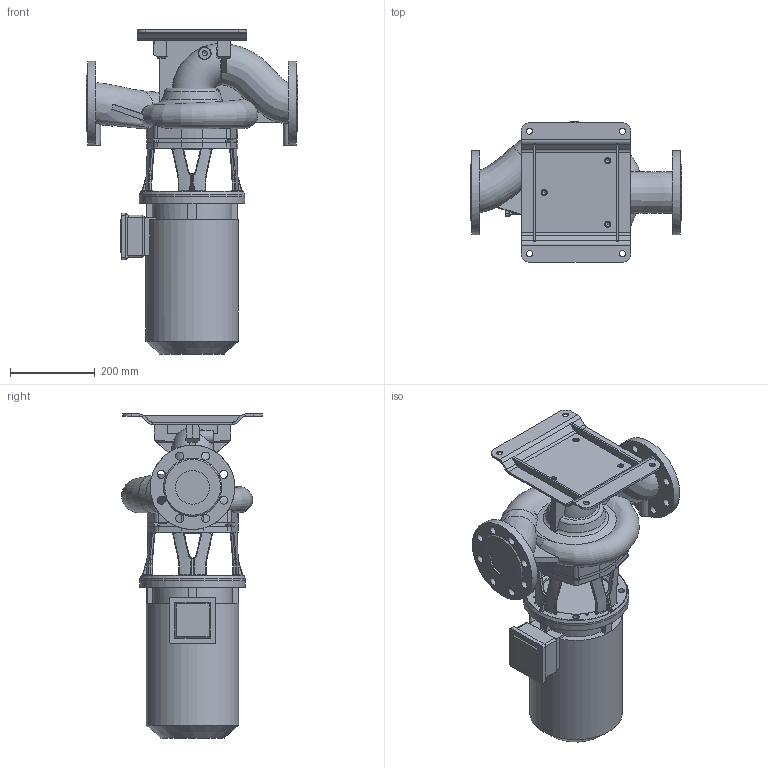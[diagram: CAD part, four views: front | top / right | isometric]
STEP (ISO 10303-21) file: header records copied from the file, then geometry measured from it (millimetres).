
FILE_DESCRIPTION (( 'STEP AP203' ), '1' );
FILE_NAME ('KI80-180_4_4kW.STEP', '2024-07-29T05:23:24', ( '' ), ( '' ), 'SwSTEP 2.0', 'SolidWorks 2023', '' );
FILE_SCHEMA (( 'CONFIG_CONTROL_DESIGN' ));
Length unit declared in the file: millimetre
Products named in the file (11): 230416; 230417; 230489; 230033; 230031; 220494; KI80-180_4_4kW; 440117_480130_solid; 230488; 220495; 230034
Assembly tree (11 placements, depth 3):
  KI80-180_4_4kW
    230417
      230416
    230489
      230488
    220495
      220494
    230034
      230031
      230033  x2
    440117_480130_solid
Bounding box: 500 x 333 x 766.85 mm (x, y, z)
Volume: 26910208.9 mm3; surface area: 1398861.6 mm2
Topology: 7 solids, 7 shells, 917 faces, 2367 edges, 1430 vertices
Faces by surface type: cylinder 285, plane 277, bspline 195, torus 84, cone 62, sphere 14
Full cylindrical faces by diameter (mm): 5 x4, 6 x3, 6.8 x4, 7 x8, 10.2 x7, 11.8 x4, 14 x4, 14.5 x7, 15 x8, 19 x16, 80 x2, 150 x1, 180 x1, 189 x1, 194 x1, 200 x2, 219 x1, 250 x2
Entity records: 72479 total; most frequent: CARTESIAN_POINT 51629, ORIENTED_EDGE 4268, DIRECTION 3781, EDGE_CURVE 2134, AXIS2_PLACEMENT_3D 1515, VERTEX_POINT 1351, EDGE_LOOP 1129, FACE_OUTER_BOUND 987
